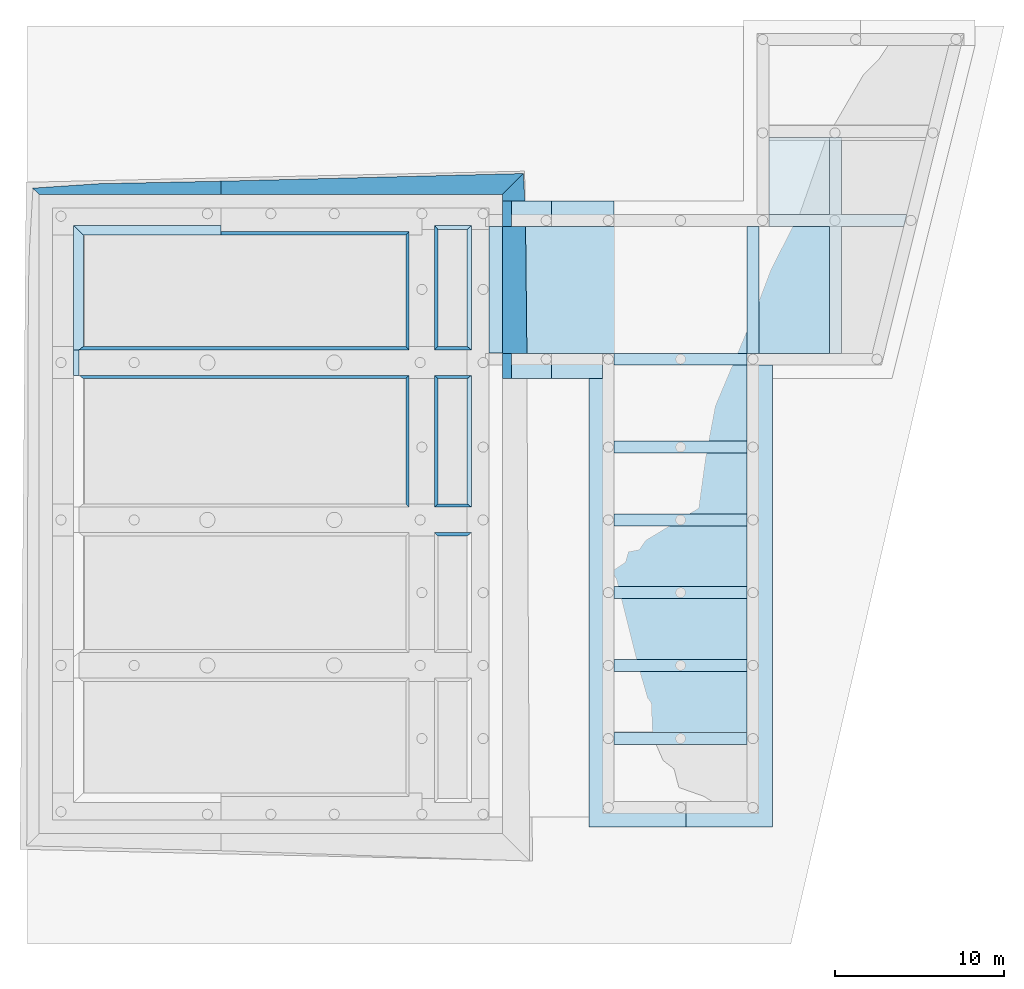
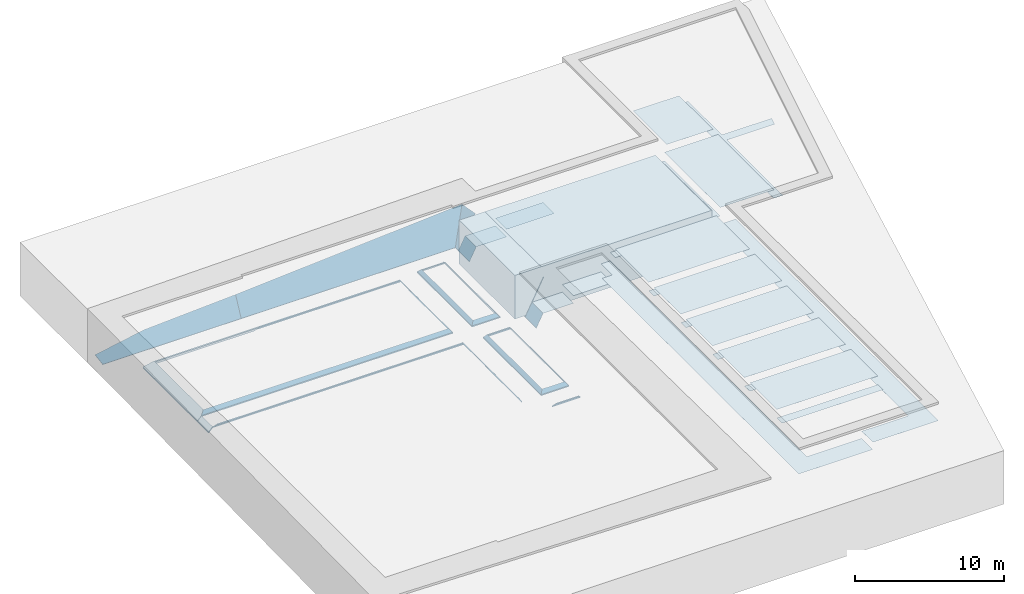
# One storey, part 2 of 7: 46 slabs.
"""IFC2X3 building model written with IfcOpenShell, lengths in millimetres."""

from ifc_helpers import new_model, entity, si_unit, converted_unit, derived_unit, money_unit, direction, frame, origin_with_axes, place, context, subcontext, project, spatial, polyline, outline, extrude, material, layer, layer_set, layer_usage, type_object, element, save


model = new_model("IFC2X3")

# Units and contexts
model_context = context("Model", 3, precision=0.01, world=origin_with_axes(), true_north=direction((0.0, 1.0)))
body_context = subcontext(model_context, "Body", "Model", "MODEL_VIEW")
ifc_project = project(units=[si_unit("LENGTHUNIT", "METRE", prefix="MILLI"), si_unit("AREAUNIT", "SQUARE_METRE"), si_unit("VOLUMEUNIT", "CUBIC_METRE"), converted_unit("PLANEANGLEUNIT", "DEGREE", entity("IfcPlaneAngleMeasure", 0.0174532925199), si_unit("PLANEANGLEUNIT", "RADIAN"), dimensions=[0, 0, 0, 0, 0, 0, 0]), money_unit("USD"), converted_unit("TIMEUNIT", "Year", entity("IfcTimeMeasure", 31556926.0), si_unit("TIMEUNIT", "SECOND"), dimensions=[0, 0, 1, 0, 0, 0, 0]), si_unit("MASSUNIT", "GRAM", prefix="KILO"), si_unit("THERMODYNAMICTEMPERATUREUNIT", "DEGREE_CELSIUS"), si_unit("LUMINOUSINTENSITYUNIT", "LUMEN"), si_unit("ENERGYUNIT", "JOULE", prefix="MEGA"), derived_unit("THERMALCONDUCTANCEUNIT", [(si_unit("POWERUNIT", "WATT"), 1), (si_unit("LENGTHUNIT", "METRE"), -1), (si_unit("THERMODYNAMICTEMPERATUREUNIT", "KELVIN"), -1)]), derived_unit("SPECIFICHEATCAPACITYUNIT", [(si_unit("ENERGYUNIT", "JOULE"), 1), (si_unit("MASSUNIT", "GRAM", prefix="KILO"), -1), (si_unit("THERMODYNAMICTEMPERATUREUNIT", "KELVIN"), -1)]), derived_unit("MASSDENSITYUNIT", [(si_unit("MASSUNIT", "GRAM", prefix="KILO"), 1), (si_unit("VOLUMEUNIT", "CUBIC_METRE"), -1)])], contexts=[model_context])

# Site, building, storey
site_placement = place(None, frame((9669.71692459, 4224.13032188, 0.0), z_axis=(0.0, 0.0, 1.0), x_axis=(1.0, 0.0, 0.0)))
site = spatial("IfcSite", under=ifc_project, at=site_placement, Name="Exteriér", CompositionType="ELEMENT")
building_placement = place(site_placement, origin_with_axes())
building = spatial("IfcBuilding", under=site, at=building_placement, Name="Budova", CompositionType="ELEMENT")
storey_placement = place(building_placement, frame((0.0, 0.0, -5000.0), z_axis=(0.0, 0.0, 1.0), x_axis=(1.0, 0.0, 0.0)))
storey = spatial("IfcBuildingStorey", under=building, at=storey_placement, Name="Základy", CompositionType="ELEMENT", Elevation=-5000.0)

# Slabs
ifc_material_1 = material(Name="Beton Prostý C 16/20")
ifc_layer_1 = layer(ifc_material_1, 60.095766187, ventilated="UNKNOWN")
ifc_layer_set_1 = layer_set([ifc_layer_1], Name="Beton Prostý C 16/20 60.0958")
ifc_layer_usage_1 = layer_usage(ifc_layer_set_1, "AXIS3", "NEGATIVE", 60.095766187)
slab_type_1 = type_object("IfcSlabType", Name="Beton Prostý C 16/20 60", PredefinedType="ROOF")
slab_1_placement = place(storey_placement, frame((12114.7374223, 30499.0524993, 1160.1263045), z_axis=(0.0, 0.0, 1.0), x_axis=(-1.0, 0.0, 0.0)))
element("IfcSlab", 1, at=slab_1_placement, inside=storey, type_object=slab_type_1, material=ifc_layer_usage_1, Name="Podkladní beton", PredefinedType="ROOF", context=body_context, shape_type="SweptSolid", body=[
    extrude(outline(polyline([(0.0, 0.0), (2180.00026948, 0.0), (1980.00028277, 373.8769852), (249.999982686, 373.8769852), (0.0, 0.0)])), frame((0.0, 0.0, 0.0), z_axis=(0.0, -0.743560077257, 0.668669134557), x_axis=(1.0, 0.0, 0.0)), (0.0, 0.743560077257, 0.668669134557), 89.8736954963),
])
ifc_material_2 = material(Name="Zemina - původní")
ifc_layer_2 = layer(ifc_material_2, 1.0, ventilated="UNKNOWN")
ifc_layer_set_2 = layer_set([ifc_layer_2], Name="Zemina - původní 1")
ifc_layer_usage_2 = layer_usage(ifc_layer_set_2, "AXIS3", "NEGATIVE", 1.0)
slab_type_2 = type_object("IfcSlabType", Name="Zemina - původní 1", PredefinedType="FLOOR")
slab_2_placement = place(storey_placement, frame((28404.7370335, 22939.0681254, 3689.0), z_axis=(0.0, 0.0, 1.0), x_axis=(1.0, 0.0, 0.0)))
element("IfcSlab", 2, at=slab_2_placement, inside=storey, type_object=slab_type_2, material=ifc_layer_usage_2, Name="Pomocné výkopy", PredefinedType="FLOOR", context=body_context, shape_type="SweptSolid", body=[
    extrude(outline(polyline([(0.0, 0.0), (700.000217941, 0.0), (700.000217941, 7499.98437388), (0.0, 7499.98437388), (0.0, 0.0)])), origin_with_axes(), (0.0, 0.0, 1.0), 1.0),
])
ifc_layer_usage_3 = layer_usage(ifc_layer_set_2, "AXIS3", "NEGATIVE", 1.0)
slab_3_placement = place(storey_placement, frame((29704.737132, 31138.9947482, 3689.0), z_axis=(0.0, 0.0, 1.0), x_axis=(1.0, 0.0, 0.0)))
element("IfcSlab", 3, at=slab_3_placement, inside=storey, type_object=slab_type_2, material=ifc_layer_usage_3, Name="Pomocné výkopy", PredefinedType="FLOOR", context=body_context, shape_type="SweptSolid", body=[
    extrude(outline(polyline([(0.0, 0.0), (0.0, -699.942392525), (3570.00000204, -699.942392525), (3570.00000204, -8199.92662286), (4270.00015145, -8199.92662286), (4269.99996146, -699.942392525), (7966.19780772, -699.942392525), (8140.67584822, 0.0577568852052), (4269.99996146, 0.0303983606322), (4269.99996146, 4550.05777811), (3570.00000204, 4550.05777811), (3570.00000204, 0.0252686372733), (0.0, 0.0)])), origin_with_axes(), (0.0, 0.0, 1.0), 1.0),
])
ifc_layer_usage_4 = layer_usage(ifc_layer_set_2, "AXIS3", "NEGATIVE", 1.0)
slab_4_placement = place(storey_placement, frame((28404.737132, 9139.05249216, 3689.0), z_axis=(0.0, 0.0, 1.0), x_axis=(1.0, 0.0, 0.0)))
element("IfcSlab", 4, at=slab_4_placement, inside=storey, type_object=slab_type_2, material=ifc_layer_usage_4, Name="Pomocné výkopy", PredefinedType="FLOOR", context=body_context, shape_type="SweptSolid", body=[
    extrude(outline(polyline([(0.0, 0.0), (-7850.00000008, 0.0), (-7850.00000008, -699.999976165), (0.0, -699.999976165), (0.0, 0.0)])), origin_with_axes(), (0.0, 0.0, 1.0), 1.0),
])
ifc_layer_usage_5 = layer_usage(ifc_layer_set_2, "AXIS3", "NEGATIVE", 1.0)
slab_5_placement = place(storey_placement, frame((24804.7371319, -5060.94750072, 3589.0), z_axis=(0.0, 0.0, 1.0), x_axis=(1.0, 0.0, 0.0)))
element("IfcSlab", 5, at=slab_5_placement, inside=storey, type_object=slab_type_2, material=ifc_layer_usage_5, Name="Pomocné výkopy", PredefinedType="FLOOR", context=body_context, shape_type="SweptSolid", body=[
    extrude(outline(polyline([(0.0, 0.0), (5100.00000008, 0.0), (5099.80636778, 27302.6704846), (3599.80567955, 27303.0), (3600.00001094, 1500.0), (0.0, 1500.0), (0.0, 0.0)])), origin_with_axes(), (0.0, 0.0, 1.0), 1.0),
])
ifc_layer_usage_6 = layer_usage(ifc_layer_set_2, "AXIS3", "NEGATIVE", 1.0)
slab_6_placement = place(storey_placement, frame((28404.737132, 514.052475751, 3689.0), z_axis=(0.0, 0.0, 1.0), x_axis=(1.0, 0.0, 0.0)))
element("IfcSlab", 6, at=slab_6_placement, inside=storey, type_object=slab_type_2, material=ifc_layer_usage_6, Name="Pomocné výkopy", PredefinedType="FLOOR", context=body_context, shape_type="SweptSolid", body=[
    extrude(outline(polyline([(0.0, 0.0), (-7850.00000008, 0.0), (-7850.00000008, -699.999976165), (0.0, -699.999976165), (0.0, 0.0)])), origin_with_axes(), (0.0, 0.0, 1.0), 1.0),
])
ifc_layer_usage_7 = layer_usage(ifc_layer_set_2, "AXIS3", "NEGATIVE", 1.0)
slab_7_placement = place(storey_placement, frame((28404.7373405, 17039.0524993, 4389.0), z_axis=(0.0, 0.0, 1.0), x_axis=(1.0, 0.0, 0.0)))
element("IfcSlab", 7, at=slab_7_placement, inside=storey, type_object=slab_type_2, material=ifc_layer_usage_7, Name="Pomocné výkopy", PredefinedType="FLOOR", context=body_context, shape_type="SweptSolid", body=[
    extrude(outline(polyline([(0.0, 0.0), (-7850.00020862, 0.0), (-7850.00020862, -3600.00002385), (0.0, -3600.00002385), (0.0, 0.0)])), origin_with_axes(), (0.0, 0.0, 1.0), 1.0),
])
ifc_layer_usage_8 = layer_usage(ifc_layer_set_2, "AXIS3", "NEGATIVE", 1.0)
slab_8_placement = place(storey_placement, frame((16834.7371319, 21439.0627679, 2350.0), z_axis=(0.0, 0.0, 1.0), x_axis=(1.0, 0.0, 0.0)))
element("IfcSlab", 8, at=slab_8_placement, inside=storey, type_object=slab_type_2, material=ifc_layer_usage_8, Name="Pomocné výkopy", PredefinedType="FLOOR", context=body_context, shape_type="SweptSolid", body=[
    extrude(outline(polyline([(0.0, 0.0), (3020.0, 0.0), (3020.0, 1500.00534633), (0.0, 1500.00534633), (0.0, 0.0)])), frame((0.0, 0.0, -1.0), z_axis=(0.0, 0.0, 1.0), x_axis=(1.0, 0.0, 0.0)), (0.0, 0.0, 1.0), 1.0),
])
ifc_layer_usage_9 = layer_usage(ifc_layer_set_2, "AXIS3", "NEGATIVE", 1.0)
slab_9_placement = place(storey_placement, frame((28404.737132, 4839.05245786, 3689.0), z_axis=(0.0, 0.0, 1.0), x_axis=(1.0, 0.0, 0.0)))
element("IfcSlab", 9, at=slab_9_placement, inside=storey, type_object=slab_type_2, material=ifc_layer_usage_9, Name="Pomocné výkopy", PredefinedType="FLOOR", context=body_context, shape_type="SweptSolid", body=[
    extrude(outline(polyline([(0.0, 0.0), (-7850.00000008, 0.0), (-7850.00000008, -699.999976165), (0.0, -699.999976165), (0.0, 0.0)])), origin_with_axes(), (0.0, 0.0, 1.0), 1.0),
])
ifc_layer_usage_10 = layer_usage(ifc_layer_set_2, "AXIS3", "NEGATIVE", 1.0)
slab_10_placement = place(storey_placement, frame((16834.7371319, 30439.0524992, 2349.0), z_axis=(0.0, 0.0, 1.0), x_axis=(1.0, 0.0, 0.0)))
element("IfcSlab", 10, at=slab_10_placement, inside=storey, type_object=slab_type_2, material=ifc_layer_usage_10, Name="Pomocné výkopy", PredefinedType="FLOOR", context=body_context, shape_type="SweptSolid", body=[
    extrude(outline(polyline([(0.0, 0.0), (3720.0, 0.0), (3720.0, 1500.0), (0.0, 1500.0), (0.0, 0.0)])), origin_with_axes(), (0.0, 0.0, 1.0), 1.0),
])
ifc_layer_usage_11 = layer_usage(ifc_layer_set_2, "AXIS3", "NEGATIVE", 1.0)
slab_11_placement = place(storey_placement, frame((14479.5483449, 21439.0627679, 1730.0), z_axis=(0.0, 0.0, 1.0), x_axis=(1.0, 0.0, 0.0)))
element("IfcSlab", 11, at=slab_11_placement, inside=storey, type_object=slab_type_2, material=ifc_layer_usage_11, Name="Pomocné výkopy", PredefinedType="FLOOR", context=body_context, shape_type="SweptSolid", body=[
    extrude(outline(polyline([(0.0, 0.0), (2355.18878699, 0.0), (2355.18878699, 1500.00534633), (0.0, 1500.00534633), (0.0, 0.0)])), frame((0.0, 0.0, -1.0), z_axis=(0.0, 0.0, 1.0), x_axis=(1.0, 0.0, 0.0)), (0.0, 0.0, 1.0), 1.0),
])
ifc_layer_usage_12 = layer_usage(ifc_layer_set_2, "AXIS3", "NEGATIVE", 1.0)
slab_12_placement = place(storey_placement, frame((14479.5483449, 30439.0524992, 1730.0), z_axis=(0.0, 0.0, 1.0), x_axis=(1.0, 0.0, 0.0)))
element("IfcSlab", 12, at=slab_12_placement, inside=storey, type_object=slab_type_2, material=ifc_layer_usage_12, Name="Pomocné výkopy", PredefinedType="FLOOR", context=body_context, shape_type="SweptSolid", body=[
    extrude(outline(polyline([(0.0, 0.0), (2355.18878697, 0.0), (2355.18878697, 1500.0), (0.0, 1500.0), (0.0, 0.0)])), frame((0.0, 0.0, -1.0), z_axis=(0.0, 0.0, 1.0), x_axis=(1.0, 0.0, 0.0)), (0.0, 0.0, 1.0), 1.0),
])
ifc_layer_usage_13 = layer_usage(ifc_layer_set_2, "AXIS3", "NEGATIVE", 1.0)
slab_13_placement = place(storey_placement, frame((19054.7371319, -5060.94750073, 3000.0), z_axis=(0.0, 0.0, 1.0), x_axis=(1.0, 0.0, 0.0)))
element("IfcSlab", 13, at=slab_13_placement, inside=storey, type_object=slab_type_2, material=ifc_layer_usage_13, Name="Pomocné výkopy", PredefinedType="FLOOR", context=body_context, shape_type="SweptSolid", body=[
    extrude(outline(polyline([(0.0, 0.0), (5750.0, 1.16999743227e-08), (5750.0, 1500.00000001), (1500.0, 1500.0), (1500.0, 28000.0156261), (800.0, 28000.0156261), (800.0, 26500.0102686), (0.0, 26500.0102686), (0.0, 0.0)])), frame((0.0, 0.0, -1.0), z_axis=(0.0, 0.0, 1.0), x_axis=(1.0, 0.0, 0.0)), (0.0, 0.0, 1.0), 1.0),
])
ifc_layer_usage_14 = layer_usage(ifc_layer_set_2, "AXIS3", "NEGATIVE", 1.0)
slab_14_placement = place(storey_placement, frame((29104.7372104, 30439.0525045, 4389.0), z_axis=(0.0, 0.0, 1.0), x_axis=(1.0, 0.0, 0.0)))
element("IfcSlab", 14, at=slab_14_placement, inside=storey, type_object=slab_type_2, material=ifc_layer_usage_14, Name="Pomocné výkopy", PredefinedType="FLOOR", context=body_context, shape_type="SweptSolid", body=[
    extrude(outline(polyline([(0.0, 0.0), (0.0, -7499.98465105), (4169.99992078, -7499.98465105), (4169.99992078, 0.0), (0.0, 0.0)])), origin_with_axes(), (0.0, 0.0, 1.0), 1.0),
])
ifc_layer_usage_15 = layer_usage(ifc_layer_set_2, "AXIS3", "NEGATIVE", 1.0)
slab_15_placement = place(storey_placement, frame((20554.7371319, 22239.0681254, 4389.0), z_axis=(0.0, 0.0, 1.0), x_axis=(1.0, 0.0, 0.0)))
element("IfcSlab", 15, at=slab_15_placement, inside=storey, type_object=slab_type_2, material=ifc_layer_usage_15, Name="Pomocné výkopy", PredefinedType="FLOOR", context=body_context, shape_type="SweptSolid", body=[
    extrude(outline(polyline([(0.0, 0.0), (0.0, -4500.01567476), (7850.0000909, -4500.01567476), (7850.0000909, 0.0), (0.0, 0.0)])), origin_with_axes(), (0.0, 0.0, 1.0), 1.0),
])
ifc_layer_usage_16 = layer_usage(ifc_layer_set_2, "AXIS3", "NEGATIVE", 1.0)
slab_16_placement = place(storey_placement, frame((20554.7371319, 9139.05244499, 4389.0), z_axis=(0.0, 0.0, 1.0), x_axis=(1.0, 0.0, 0.0)))
element("IfcSlab", 16, at=slab_16_placement, inside=storey, type_object=slab_type_2, material=ifc_layer_usage_16, Name="Pomocné výkopy", PredefinedType="FLOOR", context=body_context, shape_type="SweptSolid", body=[
    extrude(outline(polyline([(0.0, 0.0), (7850.00000068, 0.0), (7850.00000068, 3600.00005428), (0.0, 3600.00005428), (0.0, 0.0)])), origin_with_axes(), (0.0, 0.0, 1.0), 1.0),
])
ifc_layer_usage_17 = layer_usage(ifc_layer_set_2, "AXIS3", "NEGATIVE", 1.0)
slab_17_placement = place(storey_placement, frame((28404.737132, 13439.0524613, 3689.0), z_axis=(0.0, 0.0, 1.0), x_axis=(1.0, 0.0, 0.0)))
element("IfcSlab", 17, at=slab_17_placement, inside=storey, type_object=slab_type_2, material=ifc_layer_usage_17, Name="Pomocné výkopy", PredefinedType="FLOOR", context=body_context, shape_type="SweptSolid", body=[
    extrude(outline(polyline([(0.0, 0.0), (-7850.00000008, 0.0), (-7850.00000008, -700.000093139), (0.0, -700.000093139), (0.0, 0.0)])), origin_with_axes(), (0.0, 0.0, 1.0), 1.0),
])
ifc_layer_usage_18 = layer_usage(ifc_layer_set_2, "AXIS3", "NEGATIVE", 1.0)
slab_18_placement = place(storey_placement, frame((28404.737132, 17739.0524755, 3689.0), z_axis=(0.0, 0.0, 1.0), x_axis=(1.0, 0.0, 0.0)))
element("IfcSlab", 18, at=slab_18_placement, inside=storey, type_object=slab_type_2, material=ifc_layer_usage_18, Name="Pomocné výkopy", PredefinedType="FLOOR", context=body_context, shape_type="SweptSolid", body=[
    extrude(outline(polyline([(0.0, 0.0), (-7850.00000008, 0.0), (-7850.00000008, -699.999976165), (0.0, -699.999976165), (0.0, 0.0)])), origin_with_axes(), (0.0, 0.0, 1.0), 1.0),
])
ifc_layer_usage_19 = layer_usage(ifc_layer_set_2, "AXIS3", "NEGATIVE", 1.0)
slab_19_placement = place(storey_placement, frame((20554.7371319, 8439.052516, 4389.0), z_axis=(0.0, 0.0, 1.0), x_axis=(1.0, 0.0, 0.0)))
element("IfcSlab", 19, at=slab_19_placement, inside=storey, type_object=slab_type_2, material=ifc_layer_usage_19, Name="Pomocné výkopy", PredefinedType="FLOOR", context=body_context, shape_type="SweptSolid", body=[
    extrude(outline(polyline([(0.0, 0.0), (0.0, -3600.00001674), (7849.99996758, -3600.00001674), (7849.99996758, 0.0), (0.0, 0.0)])), origin_with_axes(), (0.0, 0.0, 1.0), 1.0),
])
ifc_layer_usage_20 = layer_usage(ifc_layer_set_2, "AXIS3", "NEGATIVE", 1.0)
slab_20_placement = place(storey_placement, frame((29704.737132, 31138.9948199, 4389.0), z_axis=(0.0, 0.0, 1.0), x_axis=(1.0, 0.0, 0.0)))
element("IfcSlab", 20, at=slab_20_placement, inside=storey, type_object=slab_type_2, material=ifc_layer_usage_20, Name="Pomocné výkopy", PredefinedType="FLOOR", context=body_context, shape_type="SweptSolid", body=[
    extrude(outline(polyline([(0.0, 0.0), (3570.00002256, 0.0251533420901), (3570.00002256, 4550.05770638), (0.0, 4550.05770638), (0.0, 0.0)])), origin_with_axes(), (0.0, 0.0, 1.0), 1.0),
])
ifc_layer_usage_21 = layer_usage(ifc_layer_set_2, "AXIS3", "NEGATIVE", 1.0)
slab_21_placement = place(storey_placement, frame((28404.7371428, 4139.05249922, 4389.0), z_axis=(0.0, 0.0, 1.0), x_axis=(1.0, 0.0, 0.0)))
element("IfcSlab", 21, at=slab_21_placement, inside=storey, type_object=slab_type_2, material=ifc_layer_usage_21, Name="Pomocné výkopy", PredefinedType="FLOOR", context=body_context, shape_type="SweptSolid", body=[
    extrude(outline(polyline([(0.0, 0.0), (-7850.00001094, 0.0), (-7850.00001094, -3625.00002347), (-1.08631326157e-05, -3625.00002347), (0.0, 0.0)])), origin_with_axes(), (0.0, 0.0, 1.0), 1.0),
])
ifc_layer_usage_22 = layer_usage(ifc_layer_set_2, "AXIS3", "NEGATIVE", 1.0)
slab_22_placement = place(storey_placement, frame((28404.7370335, 30439.0524992, 4389.0), z_axis=(0.0, 0.0, 1.0), x_axis=(1.0, 0.0, 0.0)))
element("IfcSlab", 22, at=slab_22_placement, inside=storey, type_object=slab_type_2, material=ifc_layer_usage_22, Name="Pomocné výkopy", PredefinedType="FLOOR", context=body_context, shape_type="SweptSolid", body=[
    extrude(outline(polyline([(0.0, 0.0), (-13260.1164273, 0.0), (-13195.1662123, -7499.98438505), (0.0, -7499.98438505), (0.0, 0.0)])), origin_with_axes(), (0.0, 0.0, 1.0), 1.0),
])
ifc_layer_usage_23 = layer_usage(ifc_layer_set_2, "AXIS3", "NEGATIVE", 1.0)
slab_23_placement = place(storey_placement, frame((28404.737132, 22939.0681015, 3689.0), z_axis=(0.0, 0.0, 1.0), x_axis=(1.0, 0.0, 0.0)))
element("IfcSlab", 23, at=slab_23_placement, inside=storey, type_object=slab_type_2, material=ifc_layer_usage_23, Name="Pomocné výkopy", PredefinedType="FLOOR", context=body_context, shape_type="SweptSolid", body=[
    extrude(outline(polyline([(0.0, 0.0), (-7850.00000008, 0.0), (-7850.00000008, -699.999976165), (0.0, -699.999976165), (0.0, 0.0)])), origin_with_axes(), (0.0, 0.0, 1.0), 1.0),
])
ifc_layer_3 = layer(ifc_material_1, 58.3966337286, ventilated="UNKNOWN")
ifc_layer_set_3 = layer_set([ifc_layer_3], Name="Beton Prostý C 16/20 58.3966")
ifc_layer_usage_24 = layer_usage(ifc_layer_set_3, "AXIS3", "NEGATIVE", 58.3966337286)
slab_type_3 = type_object("IfcSlabType", Name="Beton Prostý C 16/20 58", PredefinedType="ROOF")
slab_24_placement = place(storey_placement, frame((9934.73711791, 21639.0522029, 1150.0), z_axis=(0.0, 0.0, 1.0), x_axis=(2.36942697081e-09, -1.0, 0.0)))
element("IfcSlab", 24, at=slab_24_placement, inside=storey, type_object=slab_type_3, material=ifc_layer_usage_24, Name="Podkladní beton", PredefinedType="ROOF", context=body_context, shape_type="SweptSolid", body=[
    extrude(outline(polyline([(0.0, 0.0), (7799.99950352, 0.0), (7599.99950418, 342.485495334), (200.000000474, 342.485507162), (0.0, 0.0)])), frame((0.0, 0.0, 0.0), z_axis=(0.0, -0.811777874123, 0.583966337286), x_axis=(1.0, 0.0, 0.0)), (0.0, 0.811777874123, 0.583966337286), 100.0),
])
ifc_layer_usage_25 = layer_usage(ifc_layer_set_3, "AXIS3", "NEGATIVE", 58.3966337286)
slab_25_placement = place(storey_placement, frame((12114.7374048, 21639.0522029, 1150.0), z_axis=(0.0, 0.0, 1.0), x_axis=(-1.0, 0.0, 0.0)))
element("IfcSlab", 25, at=slab_25_placement, inside=storey, type_object=slab_type_3, material=ifc_layer_usage_25, Name="Podkladní beton", PredefinedType="ROOF", context=body_context, shape_type="SweptSolid", body=[
    extrude(outline(polyline([(0.0, 0.0), (2180.00026948, 0.0), (1980.00027925, 342.485494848), (249.999982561, 342.485494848), (0.0, 0.0)])), frame((0.0, 0.0, 0.0), z_axis=(0.0, -0.811777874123, 0.583966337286), x_axis=(1.0, 0.0, 0.0)), (0.0, 0.811777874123, 0.583966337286), 100.0),
])
ifc_layer_usage_26 = layer_usage(ifc_layer_set_3, "AXIS3", "NEGATIVE", 58.3966337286)
slab_26_placement = place(storey_placement, frame((8434.73712196, 23139.0522029, 1150.0), z_axis=(0.0, 0.0, 1.0), x_axis=(-1.0, 0.0, 0.0)))
element("IfcSlab", 26, at=slab_26_placement, inside=storey, type_object=slab_type_3, material=ifc_layer_usage_26, Name="Podkladní beton", PredefinedType="ROOF", context=body_context, shape_type="SweptSolid", body=[
    extrude(outline(polyline([(0.0, 0.0), (200.0, -342.485494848), (19265.000137, -342.485494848), (19515.1115981, 0.0), (0.0, 0.0)])), frame((0.0, 0.0, 0.0), z_axis=(0.0, 0.811777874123, 0.583966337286), x_axis=(1.0, 0.0, 0.0)), (0.0, -0.811777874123, 0.583966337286), 100.0),
])
ifc_layer_usage_27 = layer_usage(ifc_layer_set_3, "AXIS3", "NEGATIVE", 58.3966337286)
slab_27_placement = place(storey_placement, frame((9934.73713535, 13839.0526984, 1150.0), z_axis=(0.0, 0.0, 1.0), x_axis=(1.0, 0.0, 0.0)))
element("IfcSlab", 27, at=slab_27_placement, inside=storey, type_object=slab_type_3, material=ifc_layer_usage_27, Name="Podkladní beton", PredefinedType="ROOF", context=body_context, shape_type="SweptSolid", body=[
    extrude(outline(polyline([(2180.00026948, 0.0), (1930.00028692, 342.485494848), (200.0, 342.485494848), (0.0, 0.0), (2180.00026948, 0.0)])), frame((0.0, 0.0, 0.0), z_axis=(0.0, -0.811777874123, 0.583966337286), x_axis=(1.0, 0.0, 0.0)), (0.0, 0.811777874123, 0.583966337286), 100.0),
])
ifc_layer_usage_28 = layer_usage(ifc_layer_set_3, "AXIS3", "NEGATIVE", 58.3966337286)
slab_28_placement = place(storey_placement, frame((12114.7374048, 12339.0526984, 1150.0), z_axis=(0.0, 0.0, 1.0), x_axis=(-1.0, 0.0, 0.0)))
element("IfcSlab", 28, at=slab_28_placement, inside=storey, type_object=slab_type_3, material=ifc_layer_usage_28, Name="Podkladní beton", PredefinedType="ROOF", context=body_context, shape_type="SweptSolid", body=[
    extrude(outline(polyline([(0.0, 0.0), (2180.00026948, 0.0), (1980.00027925, 342.485494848), (249.999982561, 342.485494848), (0.0, 0.0)])), frame((0.0, 0.0, 0.0), z_axis=(0.0, -0.811777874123, 0.583966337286), x_axis=(1.0, 0.0, 0.0)), (0.0, 0.811777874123, 0.583966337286), 100.0),
])
ifc_layer_usage_29 = layer_usage(ifc_layer_set_3, "AXIS3", "NEGATIVE", 58.3966337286)
slab_29_placement = place(storey_placement, frame((-11080.3744761, 21639.0522029, 1151.75255349), z_axis=(0.0, 0.0, 1.0), x_axis=(1.0, 0.0, 0.0)))
element("IfcSlab", 29, at=slab_29_placement, inside=storey, type_object=slab_type_3, material=ifc_layer_usage_29, Name="Podkladní beton", PredefinedType="ROOF", context=body_context, shape_type="SweptSolid", body=[
    extrude(outline(polyline([(19515.1115981, 0.0), (0.0, 0.0), (250.11146112, -341.321707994), (19315.1115981, -341.321707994), (19515.1115981, 0.0)])), frame((0.0, 0.0, 0.0), z_axis=(0.0, 0.810341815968, 0.585957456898), x_axis=(1.0, 0.0, 0.0)), (0.0, -0.810341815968, 0.585957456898), 99.6601938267),
])
ifc_layer_usage_30 = layer_usage(ifc_layer_set_3, "AXIS3", "NEGATIVE", 58.3966337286)
slab_30_placement = place(storey_placement, frame((-2680.51488801, 30134.0524993, 1151.75255349), z_axis=(0.0, 0.0, 1.0), x_axis=(1.0, 0.0, 0.0)))
element("IfcSlab", 30, at=slab_30_placement, inside=storey, type_object=slab_type_3, material=ifc_layer_usage_30, Name="Podkladní beton", PredefinedType="ROOF", context=body_context, shape_type="SweptSolid", body=[
    extrude(outline(polyline([(11115.25201, 0.0), (0.0, 0.0), (0.0, -341.321707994), (10915.25201, -341.321707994), (11115.25201, 0.0)])), frame((0.0, 0.0, 0.0), z_axis=(0.0, 0.810341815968, 0.585957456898), x_axis=(1.0, 0.0, 0.0)), (0.0, -0.810341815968, 0.585957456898), 99.6601938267),
])
ifc_layer_usage_31 = layer_usage(ifc_layer_set_3, "AXIS3", "NEGATIVE", 58.3966337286)
slab_31_placement = place(storey_placement, frame((8434.73712196, 13839.0526984, 1150.0), z_axis=(0.0, 0.0, 1.0), x_axis=(0.0, 1.0, 0.0)))
element("IfcSlab", 31, at=slab_31_placement, inside=storey, type_object=slab_type_3, material=ifc_layer_usage_31, Name="Podkladní beton", PredefinedType="ROOF", context=body_context, shape_type="SweptSolid", body=[
    extrude(outline(polyline([(7799.99950456, 0.0), (7599.99950456, 342.485494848), (200.0, 342.485494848), (0.0, 0.0), (7799.99950456, 0.0)])), frame((0.0, 0.0, 0.0), z_axis=(0.0, -0.811777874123, 0.583966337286), x_axis=(1.0, 0.0, 0.0)), (0.0, 0.811777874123, 0.583966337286), 100.0),
])
ifc_layer_usage_32 = layer_usage(ifc_layer_set_3, "AXIS3", "NEGATIVE", 58.3966337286)
slab_32_placement = place(storey_placement, frame((12114.7374048, 23139.0522029, 1162.66737047), z_axis=(0.0, 0.0, 1.0), x_axis=(2.36942822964e-09, 1.0, 0.0)))
element("IfcSlab", 32, at=slab_32_placement, inside=storey, type_object=slab_type_3, material=ifc_layer_usage_32, Name="Podkladní beton", PredefinedType="ROOF", context=body_context, shape_type="SweptSolid", body=[
    extrude(outline(polyline([(7360.00029633, 0.0), (7110.00029562, 373.876984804), (199.999999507, 373.876960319), (0.0, 0.0), (7360.00029633, 0.0)])), frame((0.0, 0.0, 0.0), z_axis=(0.0, -0.743560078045, 0.668669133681), x_axis=(1.0, 0.0, 0.0)), (0.0, 0.743560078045, 0.668669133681), 87.3326295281),
])
ifc_layer_usage_33 = layer_usage(ifc_layer_set_3, "AXIS3", "NEGATIVE", 58.3966337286)
slab_33_placement = place(storey_placement, frame((8434.73712196, 23139.0522029, 1150.0), z_axis=(0.0, 0.0, 1.0), x_axis=(0.0, 1.0, 0.0)))
element("IfcSlab", 33, at=slab_33_placement, inside=storey, type_object=slab_type_3, material=ifc_layer_usage_33, Name="Podkladní beton", PredefinedType="ROOF", context=body_context, shape_type="SweptSolid", body=[
    extrude(outline(polyline([(6995.00029633, 0.0), (6795.00029633, 342.485494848), (200.0, 342.485494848), (0.0, 0.0), (6995.00029633, 0.0)])), frame((0.0, 0.0, 0.0), z_axis=(0.0, -0.811777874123, 0.583966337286), x_axis=(1.0, 0.0, 0.0)), (0.0, 0.811777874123, 0.583966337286), 100.0),
])
ifc_layer_usage_34 = layer_usage(ifc_layer_set_3, "AXIS3", "NEGATIVE", 58.3966337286)
slab_34_placement = place(storey_placement, frame((9934.73711791, 30499.0524993, 1150.0), z_axis=(0.0, 0.0, 1.0), x_axis=(2.36942822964e-09, -1.0, 0.0)))
element("IfcSlab", 34, at=slab_34_placement, inside=storey, type_object=slab_type_3, material=ifc_layer_usage_34, Name="Podkladní beton", PredefinedType="ROOF", context=body_context, shape_type="SweptSolid", body=[
    extrude(outline(polyline([(0.0, 0.0), (7360.00029633, 0.0), (7160.00029681, 342.485495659), (250.000000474, 342.485500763), (0.0, 0.0)])), frame((0.0, 0.0, 0.0), z_axis=(0.0, -0.811777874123, 0.583966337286), x_axis=(1.0, 0.0, 0.0)), (0.0, 0.811777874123, 0.583966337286), 100.0),
])
ifc_layer_usage_35 = layer_usage(ifc_layer_set_3, "AXIS3", "NEGATIVE", 58.3966337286)
slab_35_placement = place(storey_placement, frame((9934.73713535, 23139.0522029, 1150.0), z_axis=(0.0, 0.0, 1.0), x_axis=(1.0, 0.0, 0.0)))
element("IfcSlab", 35, at=slab_35_placement, inside=storey, type_object=slab_type_3, material=ifc_layer_usage_35, Name="Podkladní beton", PredefinedType="ROOF", context=body_context, shape_type="SweptSolid", body=[
    extrude(outline(polyline([(2180.00026948, 0.0), (1930.00028692, 342.485494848), (200.0, 342.485494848), (0.0, 0.0), (2180.00026948, 0.0)])), frame((0.0, 0.0, 0.0), z_axis=(0.0, -0.811777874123, 0.583966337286), x_axis=(1.0, 0.0, 0.0)), (0.0, 0.811777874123, 0.583966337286), 100.0),
])
ifc_layer_4 = layer(ifc_material_1, 66.8833917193, ventilated="UNKNOWN")
ifc_layer_set_4 = layer_set([ifc_layer_4], Name="Beton Prostý C 16/20 66.8834")
ifc_layer_usage_36 = layer_usage(ifc_layer_set_4, "AXIS3", "NEGATIVE", 66.8833917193)
slab_type_4 = type_object("IfcSlabType", Name="Beton Prostý C 16/20 67", PredefinedType="ROOF")
slab_36_placement = place(storey_placement, frame((-11395.263015, 22887.2536348, 800.0), z_axis=(0.0, 0.0, 1.0), x_axis=(0.0, -1.0, 0.0)))
element("IfcSlab", 36, at=slab_36_placement, inside=storey, type_object=slab_type_4, material=ifc_layer_usage_36, Name="Podkladní beton", PredefinedType="ROOF", context=body_context, shape_type="SweptSolid", body=[
    extrude(outline(polyline([(-251.798568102, 0.0), (1248.2014319, 0.0), (1248.2014319, 470.802211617), (-251.798568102, 470.802288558), (-251.798568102, 0.0)])), frame((0.0, 0.0, 0.0), z_axis=(0.0, -0.743411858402, 0.668833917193), x_axis=(1.0, 0.0, 0.0)), (0.0, 0.743411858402, 0.668833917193), 100.0),
])
ifc_layer_5 = layer(ifc_material_1, 66.8669107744, ventilated="UNKNOWN")
ifc_layer_set_5 = layer_set([ifc_layer_5], Name="Beton Prostý C 16/20 66.8669")
ifc_layer_usage_37 = layer_usage(ifc_layer_set_5, "AXIS3", "NEGATIVE", 66.8669107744)
slab_37_placement = place(storey_placement, frame((12114.7374038, 13839.0526992, 1150.0), z_axis=(0.0, 0.0, 1.0), x_axis=(2.36942697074e-09, 1.0, 0.0)))
element("IfcSlab", 37, at=slab_37_placement, inside=storey, type_object=slab_type_4, material=ifc_layer_usage_37, Name="Podkladní beton", PredefinedType="ROOF", context=body_context, shape_type="SweptSolid", body=[
    extrude(outline(polyline([(7799.99950373, 0.0), (7599.99950314, 373.876999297), (199.999998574, 373.876973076), (0.0, 0.0), (7799.99950373, 0.0)])), frame((0.0, 0.0, 0.0), z_axis=(0.0, -0.74356010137, 0.668669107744), x_axis=(1.0, 0.0, 0.0)), (0.0, 0.74356010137, 0.668669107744), 100.0),
])
ifc_layer_usage_38 = layer_usage(ifc_layer_set_4, "AXIS3", "NEGATIVE", 66.8833917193)
slab_38_placement = place(storey_placement, frame((-11395.263015, 30499.0524993, 800.0), z_axis=(0.0, 0.0, 1.0), x_axis=(1.0, 0.0, 0.0)))
element("IfcSlab", 38, at=slab_38_placement, inside=storey, type_object=slab_type_4, material=ifc_layer_usage_38, Name="Podkladní beton", PredefinedType="ROOF", context=body_context, shape_type="SweptSolid", body=[
    extrude(outline(polyline([(8714.74812699, 0.0), (0.0, 0.0), (565.0, -844.75381029), (8714.74812699, -844.75381029), (8714.74812699, 0.0)])), frame((0.0, 0.0, 0.0), z_axis=(0.0, 0.743411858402, 0.668833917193), x_axis=(1.0, 0.0, 0.0)), (0.0, -0.743411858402, 0.668833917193), 100.0),
])
ifc_layer_usage_39 = layer_usage(ifc_layer_set_4, "AXIS3", "NEGATIVE", 66.8833917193)
slab_39_placement = place(storey_placement, frame((-11395.263015, 23139.0522029, 800.0), z_axis=(0.0, 0.0, 1.0), x_axis=(0.0, 1.0, 0.0)))
element("IfcSlab", 39, at=slab_39_placement, inside=storey, type_object=slab_type_4, material=ifc_layer_usage_39, Name="Podkladní beton", PredefinedType="ROOF", context=body_context, shape_type="SweptSolid", body=[
    extrude(outline(polyline([(7360.00029633, 0.0), (0.0, 0.0), (0.0, -470.802288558), (200.0, -844.75381029), (6795.00029633, -844.75381029), (7360.00029633, 0.0)])), frame((0.0, 0.0, 0.0), z_axis=(0.0, 0.743411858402, 0.668833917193), x_axis=(1.0, 0.0, 0.0)), (0.0, -0.743411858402, 0.668833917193), 100.0),
])
ifc_layer_6 = layer(ifc_material_2, 14.9816864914, ventilated="UNKNOWN")
ifc_layer_set_6 = layer_set([ifc_layer_6], Name="Zemina - původní 14.9817")
ifc_layer_usage_40 = layer_usage(ifc_layer_set_6, "AXIS3", "NEGATIVE", 14.9816864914)
slab_type_5 = type_object("IfcSlabType", Name="Zemina - původní 15", PredefinedType="ROOF")
slab_40_placement = place(storey_placement, frame((13954.7371319, 31939.0524278, 667.0), z_axis=(0.0, 0.0, 1.0), x_axis=(0.0, 1.0, 0.0)))
element("IfcSlab", 40, at=slab_40_placement, inside=storey, type_object=slab_type_5, material=ifc_layer_usage_40, Name="Pomocné výkopy", PredefinedType="ROOF", context=body_context, shape_type="SweptSolid", body=[
    extrude(outline(polyline([(1625.65868351, -2699.74506626), (400.000071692, 0.0), (0.0, 0.0), (0.0, -2912.06950774), (1625.65868351, -2699.74506626)])), frame((0.0, 0.0, 0.0), z_axis=(0.0, 0.891006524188, 0.45399049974), x_axis=(1.0, 0.0, 0.0)), (0.0, -0.891006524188, 0.45399049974), 33.0),
])
ifc_layer_usage_41 = layer_usage(ifc_layer_set_6, "AXIS3", "NEGATIVE", 14.9816864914)
slab_41_placement = place(storey_placement, frame((13954.7371319, 30439.0524992, 667.00000003), z_axis=(0.0, 0.0, 1.0), x_axis=(0.0, 1.0, 0.0)))
element("IfcSlab", 41, at=slab_41_placement, inside=storey, type_object=slab_type_5, material=ifc_layer_usage_41, Name="Pomocné výkopy", PredefinedType="ROOF", context=body_context, shape_type="SweptSolid", body=[
    extrude(outline(polyline([(1499.99996434, -1155.99602473), (1499.99996434, 3.32271760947e-08), (0.0, 0.0), (5.59197133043e-09, -1155.99602473), (1499.99996434, -1155.99602473)])), frame((0.0, 0.0, 0.0), z_axis=(0.0, 0.891006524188, 0.45399049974), x_axis=(1.0, 0.0, 0.0)), (0.0, -0.891006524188, 0.45399049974), 33.0),
])
ifc_layer_usage_42 = layer_usage(ifc_layer_set_6, "AXIS3", "NEGATIVE", 14.9816864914)
slab_42_placement = place(storey_placement, frame((13954.737132, 32339.0524996, 667.0), z_axis=(0.0, 0.0, 1.0), x_axis=(-1.0, 0.0, 0.0)))
element("IfcSlab", 42, at=slab_42_placement, inside=storey, type_object=slab_type_5, material=ifc_layer_usage_42, Name="Pomocné výkopy", PredefinedType="ROOF", context=body_context, shape_type="SweptSolid", body=[
    extrude(outline(polyline([(27400.0, 1.32094849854e-08), (16635.25202, 0.0), (16635.25202, -1696.83421251), (23834.7537207, -1374.33469381), (27784.456028, -796.436001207), (27400.0, 1.32094849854e-08)])), frame((0.0, 0.0, 0.0), z_axis=(0.0, 0.891006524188, 0.45399049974), x_axis=(1.0, 0.0, 0.0)), (0.0, -0.891006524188, 0.45399049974), 33.0),
])
ifc_layer_usage_43 = layer_usage(ifc_layer_set_6, "AXIS3", "NEGATIVE", 14.9816864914)
slab_43_placement = place(storey_placement, frame((13954.737132, 22938.4505372, 667.000000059), z_axis=(0.0, 0.0, 1.0), x_axis=(0.0, 1.0, 0.0)))
element("IfcSlab", 43, at=slab_43_placement, inside=storey, type_object=slab_type_5, material=ifc_layer_usage_43, Name="Pomocné výkopy", PredefinedType="ROOF", context=body_context, shape_type="SweptSolid", body=[
    extrude(outline(polyline([(7500.60196205, -2992.36202104), (7500.60196205, 3.32271760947e-08), (0.0, 3.32232633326e-08), (0.0, -3170.14706241), (7500.60196205, -2992.36202104)])), frame((0.0, 0.0, 0.0), z_axis=(0.0, 0.891006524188, 0.45399049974), x_axis=(1.0, 0.0, 0.0)), (0.0, -0.891006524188, 0.45399049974), 33.0),
])
ifc_layer_usage_44 = layer_usage(ifc_layer_set_6, "AXIS3", "NEGATIVE", 14.9816864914)
slab_44_placement = place(storey_placement, frame((13954.7371319, 32339.0524994, 667.0), z_axis=(0.0, 0.0, 1.0), x_axis=(-1.0, 0.0, 0.0)))
element("IfcSlab", 44, at=slab_44_placement, inside=storey, type_object=slab_type_5, material=ifc_layer_usage_44, Name="Pomocné výkopy", PredefinedType="ROOF", context=body_context, shape_type="SweptSolid", body=[
    extrude(outline(polyline([(16635.25202, 0.0), (0.0, 0.0), (-1256.12913884, -2699.74506626), (16635.2520199, -1696.83421251), (16635.25202, 0.0)])), frame((0.0, 0.0, 0.0), z_axis=(0.0, 0.891006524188, 0.45399049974), x_axis=(1.0, 0.0, 0.0)), (0.0, -0.891006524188, 0.45399049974), 33.0),
])
ifc_layer_usage_45 = layer_usage(ifc_layer_set_6, "AXIS3", "NEGATIVE", 14.9816864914)
slab_45_placement = place(storey_placement, frame((13954.7371319, 21438.4505729, 667.000000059), z_axis=(0.0, 0.0, 1.0), x_axis=(0.0, 1.0, 0.0)))
element("IfcSlab", 45, at=slab_45_placement, inside=storey, type_object=slab_type_5, material=ifc_layer_usage_45, Name="Pomocné výkopy", PredefinedType="ROOF", context=body_context, shape_type="SweptSolid", body=[
    extrude(outline(polyline([(1499.99996434, -1155.9960247), (1499.99996434, 3.32271760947e-08), (0.0, 0.0), (5.58841861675e-09, -1155.9960247), (1499.99996434, -1155.9960247)])), frame((0.0, 0.0, 0.0), z_axis=(0.0, 0.891006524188, 0.45399049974), x_axis=(1.0, 0.0, 0.0)), (0.0, -0.891006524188, 0.45399049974), 33.0),
])
ifc_material_3 = material(Name="Hutněný násyp")
ifc_layer_7 = layer(ifc_material_3, 3590.0, ventilated="UNKNOWN")
ifc_layer_set_7 = layer_set([ifc_layer_7], Name="Hutněný násyp 3590")
ifc_layer_usage_46 = layer_usage(ifc_layer_set_7, "AXIS3", "NEGATIVE", 3590.0)
slab_type_6 = type_object("IfcSlabType", Name="Hutněný násyp 3590", PredefinedType="FLOOR")
slab_46_placement = place(storey_placement, frame((14992.4729063, 30439.0524992, 800.0), z_axis=(0.0, 0.0, 1.0), x_axis=(1.0, 0.0, 0.0)))
element("IfcSlab", 46, at=slab_46_placement, inside=storey, type_object=slab_type_6, material=ifc_layer_usage_46, Name="Zásyp", PredefinedType="FLOOR", context=body_context, shape_type="SweptSolid", body=[
    extrude(outline(polyline([(-1837.735484, 0.0), (-1837.735484, -7484.95578783), (13477.9099769, -7484.95578783), (13412.2642257, 0.0), (-1837.735484, 0.0)])), origin_with_axes(), (0.0, 0.0, 1.0), 3590.0),
])

save(model, "model.ifc")
